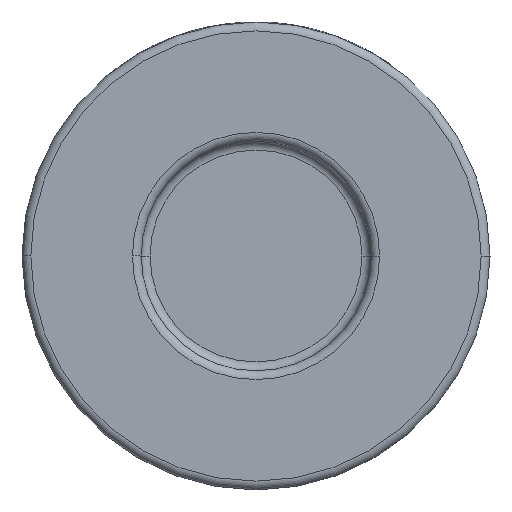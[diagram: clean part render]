
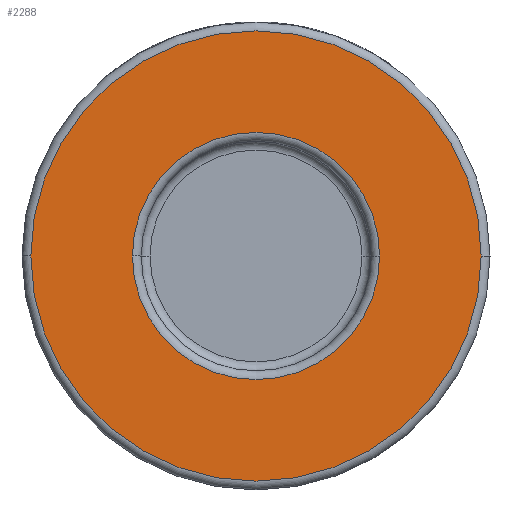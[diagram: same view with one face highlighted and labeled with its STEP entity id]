
A CAD part, front view. The second image highlights one B-rep face of the part: STEP entity #2288.
In plain terms, the highlighted planar face has unit normal (0, -1, 0).
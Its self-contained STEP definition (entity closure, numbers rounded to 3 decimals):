
#38 = CIRCLE ( 'NONE', #2181, 25.5 ) ;
#58 = CIRCLE ( 'NONE', #3283, 25.5 ) ;
#81 = CARTESIAN_POINT ( 'NONE',  ( 14., -19., 0. ) ) ;
#128 = DIRECTION ( 'NONE',  ( 0., -1., 0. ) ) ;
#316 = DIRECTION ( 'NONE',  ( 0., 1., 0. ) ) ;
#323 = CARTESIAN_POINT ( 'NONE',  ( 0., -19., 0. ) ) ;
#428 = DIRECTION ( 'NONE',  ( 1., 0., 0. ) ) ;
#475 = FACE_BOUND ( 'NONE', #3833, .T. ) ;
#494 = PLANE ( 'NONE',  #3175 ) ;
#550 = EDGE_CURVE ( 'NONE', #2672, #1435, #38, .T. ) ;
#621 = CARTESIAN_POINT ( 'NONE',  ( 25.5, -19., 0. ) ) ;
#707 = DIRECTION ( 'NONE',  ( 1., 0., 0. ) ) ;
#1078 = EDGE_CURVE ( 'NONE', #1435, #2672, #58, .T. ) ;
#1237 = DIRECTION ( 'NONE',  ( 0., -1., 0. ) ) ;
#1272 = CARTESIAN_POINT ( 'NONE',  ( -25.5, -19., 0. ) ) ;
#1315 = ORIENTED_EDGE ( 'NONE', *, *, #1078, .T. ) ;
#1435 = VERTEX_POINT ( 'NONE', #1272 ) ;
#1580 = EDGE_LOOP ( 'NONE', ( #4152, #1315 ) ) ;
#1627 = AXIS2_PLACEMENT_3D ( 'NONE', #2168, #316, #707 ) ;
#1670 = EDGE_CURVE ( 'NONE', #3821, #2779, #1915, .T. ) ;
#1728 = DIRECTION ( 'NONE',  ( 0., -1., 0. ) ) ;
#1817 = DIRECTION ( 'NONE',  ( 0., 1., 0. ) ) ;
#1915 = CIRCLE ( 'NONE', #1627, 14. ) ;
#2114 = DIRECTION ( 'NONE',  ( 1., 0., 0. ) ) ;
#2168 = CARTESIAN_POINT ( 'NONE',  ( 0., -19., 0. ) ) ;
#2181 = AXIS2_PLACEMENT_3D ( 'NONE', #2289, #1237, #2637 ) ;
#2288 = ADVANCED_FACE ( 'NONE', ( #475, #4302 ), #494, .T. ) ;
#2289 = CARTESIAN_POINT ( 'NONE',  ( 0., -19., 0. ) ) ;
#2418 = ORIENTED_EDGE ( 'NONE', *, *, #1670, .T. ) ;
#2550 = ORIENTED_EDGE ( 'NONE', *, *, #4136, .T. ) ;
#2637 = DIRECTION ( 'NONE',  ( 1., 0., 0. ) ) ;
#2672 = VERTEX_POINT ( 'NONE', #621 ) ;
#2779 = VERTEX_POINT ( 'NONE', #4183 ) ;
#3175 = AXIS2_PLACEMENT_3D ( 'NONE', #3295, #128, #3235 ) ;
#3235 = DIRECTION ( 'NONE',  ( 1., 0., 0. ) ) ;
#3283 = AXIS2_PLACEMENT_3D ( 'NONE', #323, #1728, #428 ) ;
#3295 = CARTESIAN_POINT ( 'NONE',  ( 26.5, -19., 0. ) ) ;
#3564 = CARTESIAN_POINT ( 'NONE',  ( 0., -19., 0. ) ) ;
#3821 = VERTEX_POINT ( 'NONE', #81 ) ;
#3833 = EDGE_LOOP ( 'NONE', ( #2418, #2550 ) ) ;
#3976 = CIRCLE ( 'NONE', #4046, 14. ) ;
#4046 = AXIS2_PLACEMENT_3D ( 'NONE', #3564, #1817, #2114 ) ;
#4136 = EDGE_CURVE ( 'NONE', #2779, #3821, #3976, .T. ) ;
#4152 = ORIENTED_EDGE ( 'NONE', *, *, #550, .T. ) ;
#4183 = CARTESIAN_POINT ( 'NONE',  ( -14., -19., 0. ) ) ;
#4302 = FACE_OUTER_BOUND ( 'NONE', #1580, .T. ) ;
